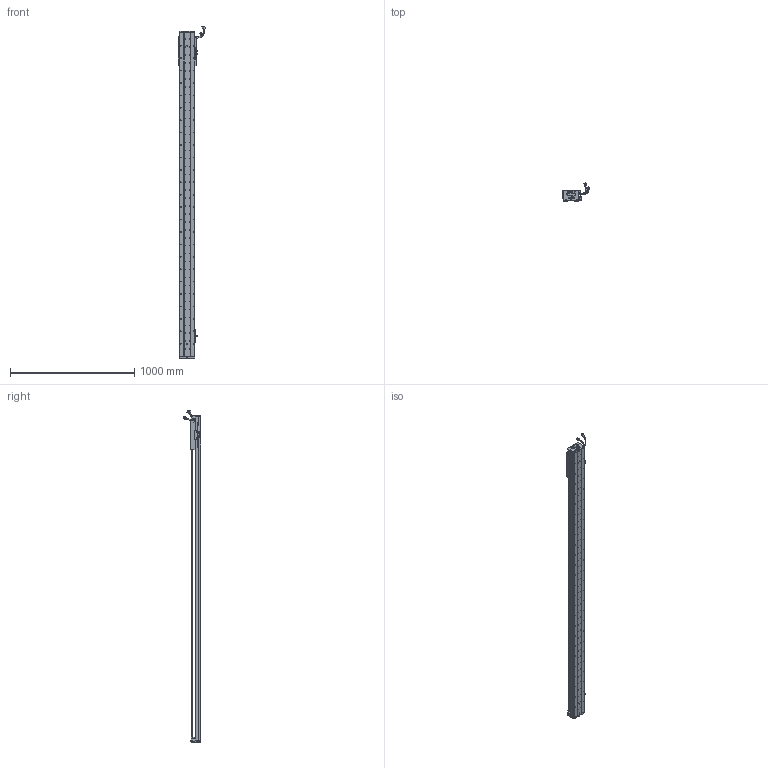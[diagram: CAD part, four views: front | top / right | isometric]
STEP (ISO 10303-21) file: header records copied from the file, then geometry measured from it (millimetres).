
FILE_DESCRIPTION (( 'STEP AP203' ), '1' );
FILE_NAME ('Z3-RY120D-1-L500-B-K.SLDASM_2300.step', '2021-05-17T05:49:50', ( '盈信电脑' ), ( '东莞市道滘镇水果街19号' ), 'SwSTEP 2.0', 'SolidWorks 2016', '' );
FILE_SCHEMA (( 'CONFIG_CONTROL_DESIGN' ));
Length unit declared in the file: millimetre
Products named in the file (37): 覜茼ん672; Z-RY120D詩湍奻揤裔; 140蚥薯蝶輸; SEAL-Part-1; HOLDER0; HARNESS; Z3-RY120-500-倰第菁釱_2300; SCREW-M1.7-1; HARNESS-Part-1; Z-120詩湍傷裔啣; Z-RY120D詩湍狟揤裔; COVER; Z3-RY120D-1-L500-B-K.SLDASM_2300; SEAL; 140雄赽晤鎢ん堤盄; 榋妏寠巭燃_暯_M2_2; PSLH080_PSLF2; SHIELDPLATE; SCREW-M1.6-2; 672嫖萇羲壽假蚾釱; 120-Z-臏賑輸盄裔(21遴); SCREW-M1.7; LABEL; RY100FB-遵嫖萇覜茼え; SCREW-M1.6; Z3-RY120铝滑块（21款）; SCALE-Part-1; LABEL-Part-1; SCALE; COVER-Part-1; SCREW-M1.6-1; Z3-RY120-L500詩湍100mm遵_2300; HARNESS-Part-2; SCREW-M1.6-3; 080黍杅芛假蚾釱21遴; PBU_SHEET; SCALE-Part-2
Assembly tree (43 placements, depth 4):
  Z3-RY120D-1-L500-B-K.SLDASM_2300
    Z3-RY120-500-倰第菁釱_2300
    覜茼ん672  x3
    672嫖萇羲壽假蚾釱  x2
    Z3-RY120铝滑块（21款）
    PSLH080_PSLF2
      SCALE
        SCALE-Part-1
        SCALE-Part-2
      HARNESS
        HARNESS-Part-1
        HARNESS-Part-2
      LABEL
        LABEL-Part-1
      COVER
        COVER-Part-1
      SEAL
        SEAL-Part-1
      榋妏寠巭燃_暯_M2_2
      SHIELDPLATE
      SCREW-M1.7
      SCREW-M1.7-1
      PBU_SHEET
      SCREW-M1.6
      SCREW-M1.6-1
      SCREW-M1.6-2
      SCREW-M1.6-3
      HOLDER0
    080黍杅芛假蚾釱21遴
    120-Z-臏賑輸盄裔(21遴)
    140雄赽晤鎢ん堤盄
    140蚥薯蝶輸  x2
    RY100FB-遵嫖萇覜茼え
    Z-120詩湍傷裔啣  x2
    Z-RY120D詩湍奻揤裔  x2
    Z-RY120D詩湍狟揤裔  x2
    Z3-RY120-L500詩湍100mm遵_2300
Bounding box: 222.83 x 140.94 x 2673.99 mm (x, y, z)
Volume: 6287501.8 mm3; surface area: 2194581.4 mm2
Topology: 38 solids, 38 shells, 3657 faces, 10393 edges, 6552 vertices
Faces by surface type: cylinder 1909, plane 1240, cone 386, torus 69, bspline 53
Entity records: 122174 total; most frequent: CARTESIAN_POINT 37159, ORIENTED_EDGE 17538, DIRECTION 16155, EDGE_CURVE 8769, AXIS2_PLACEMENT_3D 5978, VERTEX_POINT 5672, VECTOR 4199, LINE 4199
